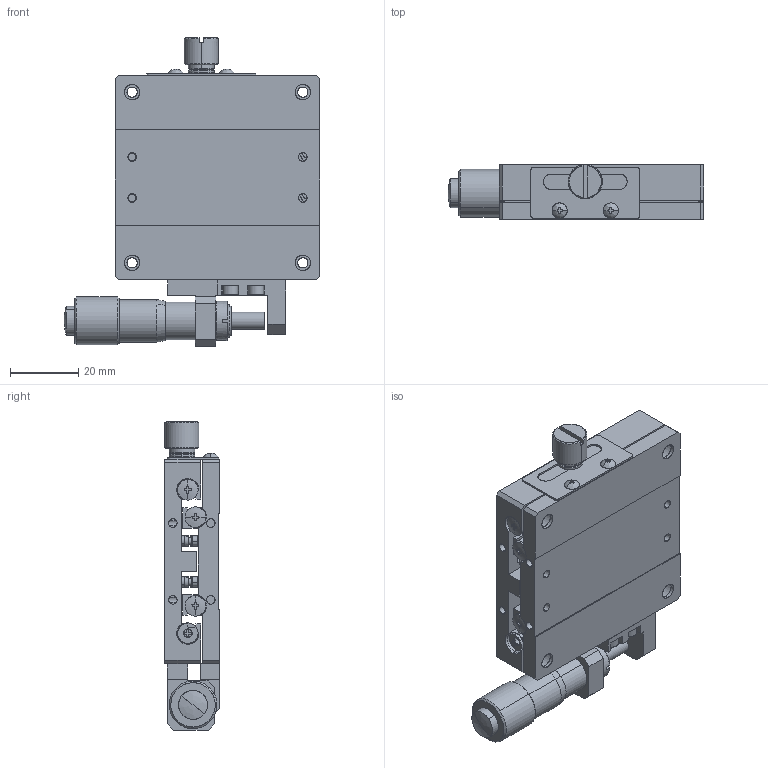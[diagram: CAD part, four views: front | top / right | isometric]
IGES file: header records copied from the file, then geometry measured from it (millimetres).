
Start section: SolidWorks IGES file using analytic representation for surfaces
Global section: file name: E:\数据恢复2017\F\CAD图纸\2017年\2017.6.15PHS-662\临时\PHS-661SZ.IGS; native system: SolidWorks 2015; preprocessor: SolidWorks 2015; author: Administrator; date: 180413.161921; units: millimetre
Bounding box: 74.91 x 16 x 90.5 mm (x, y, z)
Surface area: 31934.4 mm2 (no closed solid volume)
Topology: 0 solids, 0 shells, 890 faces, 13819 edges, 13814 vertices
Faces by surface type: revolution 453, bspline 437
